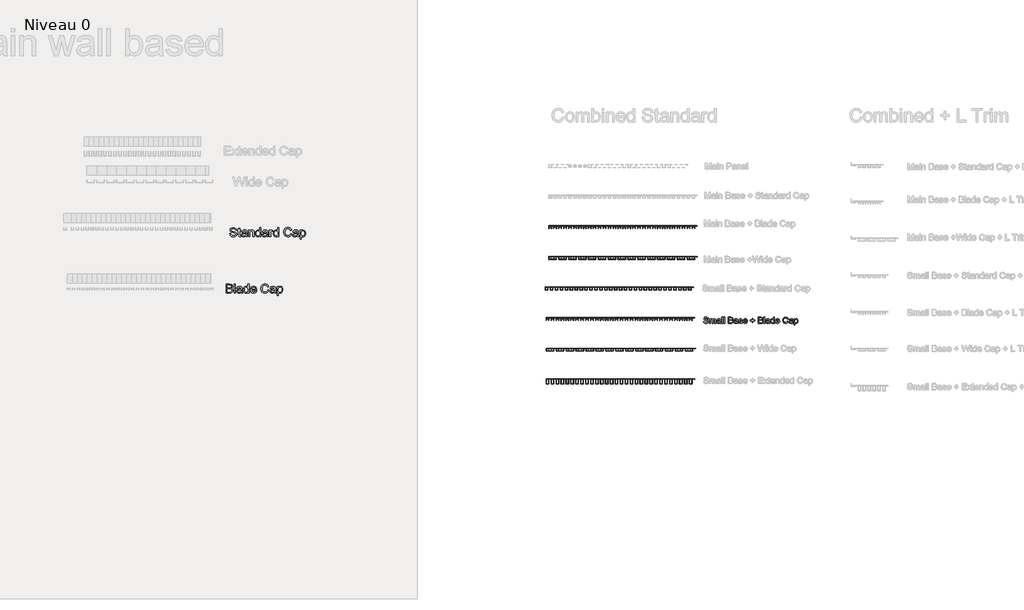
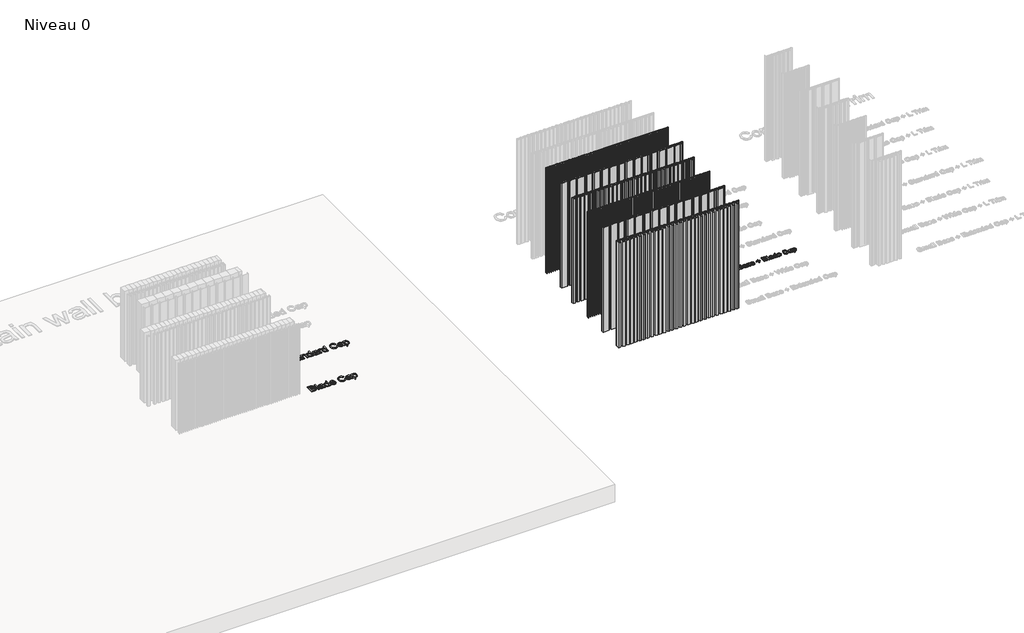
# One storey, part 4 of 25: 9 proxies.
"""IFC4 building model written with IfcOpenShell, lengths in millimetres."""

from ifc_helpers import new_model, si_unit, origin, origin_with_axes, place, context, project, spatial, polyline, outline, extrude, transform, mapped, element, save
from components import a_gen_line_main_base_wide_cap_a_gen_line_main_base_wide_cap_99c77cfe, a_gen_line_main_base_blade_cap_a_gen_line_main_base_blade_9d8e08f2, a_gen_line_small_base_blade_cap_a_gen_line_small_base_blade_af6c0902, a_gen_line_small_base_extended_cap_a_gen_line_small_base_7a9827a8, a_gen_line_small_base_standard_cap_a_gen_line_small_base_28fe45ff, a_gen_line_small_base_wide_cap_a_gen_line_small_base_wide_f15921c7

model = new_model("IFC4")

# Units and contexts
model_context = context("Model", 3, world=origin())
ifc_project = project(units=[si_unit("LENGTHUNIT", "METRE", prefix="MILLI")], contexts=[model_context])

# Site, building, storey
site = spatial("IfcSite", under=ifc_project)
building = spatial("IfcBuilding", under=site)
storey = spatial("IfcBuildingStorey", under=building, Name="Niveau 0", Elevation=0.0)

# Proxies
placement = place(None, origin())
element("IfcBuildingElementProxy", 1, Name="100mm Arial", ObjectType="100mm Arial", at=placement, inside=storey, context=model_context, shape_type="SweptSolid", body=[
    extrude(outline(polyline([(-6970.0910603, 3800.4871927), (-6957.5340215, 3800.4871927), (-6953.4873196, 3787.9178912), (-6943.6035566, 3779.9716401), (-6928.5449203, 3776.942745), (-6915.4237958, 3779.2358761), (-6906.9502472, 3785.538921), (-6904.1666067, 3793.9634187), (-6906.2512714, 3801.7993052), (-6914.7861337, 3807.5014761), (-6933.0698688, 3812.2962048), (-6952.7515556, 3818.488885), (-6963.4323962, 3827.8330877), (-6966.9518006, 3840.3165501), (-6962.5985303, 3854.5290578), (-6949.882076, 3864.5599735), (-6931.267247, 3867.9812761), (-6911.4016193, 3864.400558), (-6898.1578675, 3853.8791329), (-6893.1791978, 3838.158309), (-6905.7362366, 3838.158309), (-6908.0416304, 3845.650839), (-6912.8486218, 3851.0587043), (-6930.7767377, 3855.4242373), (-6948.7539045, 3851.1077552), (-6954.3947618, 3840.6844321), (-6950.3971108, 3831.9778915), (-6929.8938209, 3824.9636081), (-6907.6737484, 3818.6605633), (-6895.5213798, 3808.4824947), (-6891.609568, 3794.2822497), (-6896.109991, 3779.2604016), (-6909.0594373, 3768.2975181), (-6928.054411, 3764.3857063), (-6950.4829499, 3768.6040865), (-6964.6709322, 3781.308278), (-6970.0910603, 3800.4871927)])), origin_with_axes(), (0.0, 0.0, 1.0), 10.0),
    extrude(outline(polyline([(-6847.6599323, 3776.4277102), (-6846.0903024, 3765.5874541), (-6855.483556, 3764.3857063), (-6866.0049811, 3766.4703709), (-6871.2534309, 3771.9395499), (-6872.7740098, 3786.1888458), (-6872.7740098, 3827.1709001), (-6882.1917889, 3827.1709001), (-6882.1917889, 3839.7279389), (-6872.7740098, 3839.7279389), (-6872.7740098, 3857.6560548), (-6860.216971, 3865.0382201), (-6860.216971, 3839.7279389), (-6847.6599323, 3839.7279389), (-6847.6599323, 3827.1709001), (-6860.216971, 3827.1709001), (-6860.216971, 3786.5567278), (-6859.5547834, 3780.0820047), (-6857.4088051, 3777.7888736), (-6853.1291113, 3776.942745), (-6847.6599323, 3776.4277102)])), origin_with_axes(), (0.0, 0.0, 1.0), 10.0),
    extrude(outline(polyline([(-6788.0139981, 3775.3731152), (-6800.1908922, 3766.8627784), (-6813.6431105, 3764.3857063), (-6824.1369444, 3765.8756283), (-6831.8777947, 3770.3453946), (-6836.6510636, 3777.1328174), (-6838.2421532, 3785.5757092), (-6835.8386575, 3795.508523), (-6829.5233499, 3802.7190101), (-6820.7309702, 3806.8392885), (-6809.8661886, 3808.7277494), (-6788.0875745, 3813.0442315), (-6788.0139981, 3815.8401346), (-6791.4720889, 3825.1107609), (-6805.3535028, 3828.7405299), (-6818.0576944, 3826.3247715), (-6824.1154846, 3817.753121), (-6836.6725233, 3819.3227509), (-6831.2401326, 3831.585484), (-6820.3017746, 3838.7714457), (-6803.734822, 3841.2975687), (-6788.5167702, 3839.0657513), (-6779.9205942, 3833.4616822), (-6776.070096, 3824.9390827), (-6775.4569594, 3813.9516737), (-6775.4569594, 3798.3289517), (-6774.8192972, 3776.5135494), (-6772.3176997, 3765.9553361), (-6784.8747384, 3765.9553361), (-6788.0139981, 3775.3731152)]), holes=[polyline([(-6788.0139981, 3800.4871927), (-6808.2720333, 3796.6366945), (-6819.0755012, 3794.6010808), (-6823.9683318, 3791.2901428), (-6825.6851144, 3786.458626), (-6821.9449808, 3779.6650718), (-6810.9698346, 3776.942745), (-6798.2656431, 3779.9471146), (-6790.0741373, 3787.2189154), (-6788.0875745, 3796.9310001), (-6788.0139981, 3800.4871927)])]), origin_with_axes(), (0.0, 0.0, 1.0), 10.0),
    extrude(outline(polyline([(-6758.191031, 3765.9553361), (-6758.191031, 3839.7279389), (-6745.6339923, 3839.7279389), (-6745.6339923, 3829.427243), (-6736.0322722, 3838.3299873), (-6722.9234104, 3841.2975687), (-6711.0653475, 3838.9063357), (-6702.9719436, 3832.6278164), (-6699.2072845, 3823.3939783), (-6698.5450969, 3811.2538724), (-6698.5450969, 3765.9553361), (-6711.1021357, 3765.9553361), (-6711.1021357, 3809.5616153), (-6712.5491382, 3820.6716515), (-6717.6626979, 3826.5455007), (-6726.2833993, 3828.7405299), (-6739.9072959, 3823.8109112), (-6744.2023182, 3816.6678691), (-6745.6339923, 3805.0979804), (-6745.6339923, 3765.9553361), (-6758.191031, 3765.9553361)])), origin_with_axes(), (0.0, 0.0, 1.0), 10.0),
    extrude(outline(polyline([(-6635.759903, 3765.9553361), (-6635.759903, 3777.8011363), (-6644.0679048, 3767.7395638), (-6655.5519544, 3764.3857063), (-6671.1011001, 3769.2417486), (-6682.088509, 3782.7920687), (-6685.9880581, 3802.7680611), (-6682.3950773, 3822.7563162), (-6671.6283976, 3836.5151028), (-6655.6010053, 3841.2975687), (-6644.0249852, 3837.8762662), (-6635.759903, 3828.9857846), (-6635.759903, 3866.4116462), (-6623.2028643, 3866.4116462), (-6623.2028643, 3765.9553361), (-6635.759903, 3765.9553361)]), holes=[polyline([(-6673.4310194, 3802.817112), (-6672.0146737, 3791.4587554), (-6667.7656366, 3783.3806799), (-6661.5913505, 3778.5522287), (-6654.3992575, 3776.942745), (-6647.2102301, 3778.4786523), (-6641.1922938, 3783.0863743), (-6637.1180007, 3790.8517501), (-6635.759903, 3801.8606188), (-6637.1425262, 3813.8964914), (-6641.2903957, 3822.2412814), (-6647.4616162, 3827.1157178), (-6654.9142923, 3828.7405299), (-6662.1799617, 3827.1800971), (-6668.1335186, 3822.4987988), (-6672.1066442, 3814.4575115), (-6673.4310194, 3802.817112)])]), origin_with_axes(), (0.0, 0.0, 1.0), 10.0),
    extrude(outline(polyline([(-6557.2784107, 3775.3731152), (-6569.4553048, 3766.8627784), (-6582.9075231, 3764.3857063), (-6593.401357, 3765.8756283), (-6601.1422073, 3770.3453946), (-6605.9154762, 3777.1328174), (-6607.5065658, 3785.5757092), (-6605.1030701, 3795.508523), (-6598.7877625, 3802.7190101), (-6589.9953828, 3806.8392885), (-6579.1306013, 3808.7277494), (-6557.3519871, 3813.0442315), (-6557.2784107, 3815.8401346), (-6560.7365015, 3825.1107609), (-6574.6179155, 3828.7405299), (-6587.322107, 3826.3247715), (-6593.3798972, 3817.753121), (-6605.936936, 3819.3227509), (-6600.5045452, 3831.585484), (-6589.5661872, 3838.7714457), (-6572.9992347, 3841.2975687), (-6557.7811828, 3839.0657513), (-6549.1850069, 3833.4616822), (-6545.3345086, 3824.9390827), (-6544.721372, 3813.9516737), (-6544.721372, 3798.3289517), (-6544.0837099, 3776.5135494), (-6541.5821123, 3765.9553361), (-6554.1391511, 3765.9553361), (-6557.2784107, 3775.3731152)]), holes=[polyline([(-6557.2784107, 3800.4871927), (-6577.5364459, 3796.6366945), (-6588.3399139, 3794.6010808), (-6593.2327444, 3791.2901428), (-6594.9495271, 3786.458626), (-6591.2093934, 3779.6650718), (-6580.2342472, 3776.942745), (-6567.5300557, 3779.9471146), (-6559.3385499, 3787.2189154), (-6557.3519871, 3796.9310001), (-6557.2784107, 3800.4871927)])]), origin_with_axes(), (0.0, 0.0, 1.0), 10.0),
    extrude(outline(polyline([(-6527.4554437, 3765.9553361), (-6527.4554437, 3839.7279389), (-6516.4680347, 3839.7279389), (-6516.4680347, 3828.8141063), (-6508.6689364, 3838.8695475), (-6500.8207872, 3841.2975687), (-6488.2146975, 3837.422545), (-6492.4085523, 3826.165356), (-6501.2377201, 3828.7405299), (-6508.3378427, 3826.2634578), (-6512.8627912, 3819.3963273), (-6514.8984049, 3804.7300984), (-6514.8984049, 3765.9553361), (-6527.4554437, 3765.9553361)])), origin_with_axes(), (0.0, 0.0, 1.0), 10.0),
    extrude(outline(polyline([(-6434.8472828, 3765.9553361), (-6434.8472828, 3777.8011363), (-6443.1552845, 3767.7395638), (-6454.6393341, 3764.3857063), (-6470.1884798, 3769.2417486), (-6481.1758887, 3782.7920687), (-6485.0754378, 3802.7680611), (-6481.482457, 3822.7563162), (-6470.7157773, 3836.5151028), (-6454.688385, 3841.2975687), (-6443.1123649, 3837.8762662), (-6434.8472828, 3828.9857846), (-6434.8472828, 3866.4116462), (-6422.290244, 3866.4116462), (-6422.290244, 3765.9553361), (-6434.8472828, 3765.9553361)]), holes=[polyline([(-6472.5183991, 3802.817112), (-6471.1020534, 3791.4587554), (-6466.8530163, 3783.3806799), (-6460.6787302, 3778.5522287), (-6453.4866372, 3776.942745), (-6446.2976099, 3778.4786523), (-6440.2796735, 3783.0863743), (-6436.2053804, 3790.8517501), (-6434.8472828, 3801.8606188), (-6436.2299059, 3813.8964914), (-6440.3777754, 3822.2412814), (-6446.5489959, 3827.1157178), (-6454.001672, 3828.7405299), (-6461.2673414, 3827.1800971), (-6467.2208983, 3822.4987988), (-6471.1940239, 3814.4575115), (-6472.5183991, 3802.817112)])]), origin_with_axes(), (0.0, 0.0, 1.0), 10.0),
    extrude(outline(polyline([(-6292.0109668, 3801.6644151), (-6279.453928, 3798.4270535), (-6285.2480694, 3783.7945472), (-6294.3408861, 3773.1045095), (-6306.2847882, 3766.5654071), (-6320.632186, 3764.3857063), (-6335.1972473, 3766.0350439), (-6346.7640704, 3770.9830567), (-6355.6300265, 3779.0580665), (-6362.0924868, 3790.088395), (-6367.3531994, 3816.9437806), (-6365.866343, 3831.5916154), (-6361.4057738, 3844.2406247), (-6354.2044837, 3854.4892039), (-6344.4954647, 3861.9357486), (-6332.9807583, 3866.4698942), (-6320.3624059, 3867.9812761), (-6306.5944222, 3866.0253702), (-6295.2115401, 3860.1576523), (-6286.5693789, 3850.7398733), (-6281.0235578, 3838.1337836), (-6293.5805966, 3835.1416767), (-6303.8812925, 3850.5804577), (-6320.8529152, 3855.4242373), (-6340.4978137, 3850.0531602), (-6351.5955872, 3835.632186), (-6354.7961606, 3816.9683061), (-6351.006976, 3795.3368448), (-6339.2102267, 3781.5167445), (-6321.8829848, 3776.942745), (-6311.4014136, 3778.5001121), (-6302.6672819, 3783.1722135), (-6296.0729971, 3790.9099981), (-6292.0109668, 3801.6644151)])), origin_with_axes(), (0.0, 0.0, 1.0), 10.0),
    extrude(outline(polyline([(-6216.6687341, 3775.3731152), (-6228.8456282, 3766.8627784), (-6242.2978465, 3764.3857063), (-6252.7916804, 3765.8756283), (-6260.5325307, 3770.3453946), (-6265.3057996, 3777.1328174), (-6266.8968892, 3785.5757092), (-6264.4933935, 3795.508523), (-6258.1780859, 3802.7190101), (-6249.3857062, 3806.8392885), (-6238.5209247, 3808.7277494), (-6216.7423105, 3813.0442315), (-6216.6687341, 3815.8401346), (-6220.1268249, 3825.1107609), (-6234.0082389, 3828.7405299), (-6246.7124304, 3826.3247715), (-6252.7702206, 3817.753121), (-6265.3272594, 3819.3227509), (-6259.8948686, 3831.585484), (-6248.9565106, 3838.7714457), (-6232.3895581, 3841.2975687), (-6217.1715062, 3839.0657513), (-6208.5753303, 3833.4616822), (-6204.724832, 3824.9390827), (-6204.1116954, 3813.9516737), (-6204.1116954, 3798.3289517), (-6203.4740333, 3776.5135494), (-6200.9724357, 3765.9553361), (-6213.5294745, 3765.9553361), (-6216.6687341, 3775.3731152)]), holes=[polyline([(-6216.6687341, 3800.4871927), (-6236.9267693, 3796.6366945), (-6247.7302373, 3794.6010808), (-6252.6230678, 3791.2901428), (-6254.3398505, 3786.458626), (-6250.5997168, 3779.6650718), (-6239.6245706, 3776.942745), (-6226.9203791, 3779.9471146), (-6218.7288733, 3787.2189154), (-6216.7423105, 3796.9310001), (-6216.6687341, 3800.4871927)])]), origin_with_axes(), (0.0, 0.0, 1.0), 10.0),
    extrude(outline(polyline([(-6186.8457671, 3737.7019989), (-6186.8457671, 3839.7279389), (-6174.2887283, 3839.7279389), (-6174.2887283, 3827.4161548), (-6165.6067132, 3837.8272152), (-6153.8835403, 3841.2975687), (-6137.9665126, 3836.4415264), (-6127.5677149, 3822.7563162), (-6124.0605732, 3803.4057232), (-6128.021436, 3783.0618489), (-6139.5238798, 3769.2049604), (-6155.4041192, 3764.3857063), (-6166.3302145, 3767.6108051), (-6174.2887283, 3775.7655226), (-6174.2887283, 3737.7019989), (-6186.8457671, 3737.7019989)]), holes=[polyline([(-6174.2887283, 3802.2530263), (-6172.9306306, 3790.9958372), (-6168.8563375, 3783.1231625), (-6162.8445326, 3778.4878494), (-6155.6738993, 3776.942745), (-6148.3867702, 3778.5430317), (-6142.2216811, 3783.3438917), (-6138.0186293, 3791.5047407), (-6136.617612, 3803.184994), (-6137.9849067, 3814.3808694), (-6142.086791, 3822.3639087), (-6148.0893989, 3827.1463746), (-6155.1588646, 3828.7405299), (-6162.2559214, 3827.0452071), (-6168.4884555, 3821.9592385), (-6172.8386601, 3813.6420397), (-6174.2887283, 3802.2530263)])]), origin_with_axes(), (0.0, 0.0, 1.0), 10.0),
])
element("IfcBuildingElementProxy", 2, Name="100mm Arial", ObjectType="100mm Arial", at=placement, inside=storey, context=model_context, shape_type="SweptSolid", body=[
    extrude(outline(polyline([(-7011.4402734, 3137.6682219), (-7011.4402734, 3238.124532), (-6973.1069695, 3238.124532), (-6954.332725, 3235.1692134), (-6943.2472142, 3226.0825281), (-6939.2373004, 3213.2311837), (-6942.6095521, 3201.4957481), (-6952.7998833, 3192.6052665), (-6940.4267856, 3183.2365384), (-6936.0980407, 3167.6138163), (-6939.0533594, 3154.1125471), (-6946.3742111, 3144.4985643), (-6957.3003064, 3139.3972673), (-6973.4012751, 3137.6682219), (-7011.4402734, 3137.6682219)]), holes=[polyline([(-6998.8832346, 3197.3141561), (-6975.9519236, 3197.3141561), (-6962.5610189, 3198.3932766), (-6954.5044032, 3203.0408524), (-6951.7943392, 3211.2200955), (-6954.3204622, 3219.4116012), (-6961.5554748, 3224.2553808), (-6977.6932317, 3225.5674933), (-6998.8832346, 3225.5674933), (-6998.8832346, 3197.3141561)]), polyline([(-6998.8832346, 3150.2252607), (-6973.1314949, 3150.2252607), (-6963.8118177, 3150.71577), (-6955.9268803, 3153.4503595), (-6950.702956, 3159.0299031), (-6948.6550795, 3167.491189), (-6951.0585752, 3177.2523246), (-6958.8454108, 3183.0771228), (-6974.3577682, 3184.7571173), (-6998.8832346, 3184.7571173), (-6998.8832346, 3150.2252607)])]), origin_with_axes(), (0.0, 0.0, 1.0), 10.0),
    extrude(outline(polyline([(-6920.4017423, 3137.6682219), (-6920.4017423, 3238.124532), (-6907.8447035, 3238.124532), (-6907.8447035, 3137.6682219), (-6920.4017423, 3137.6682219)])), origin_with_axes(), (0.0, 0.0, 1.0), 10.0),
    extrude(outline(polyline([(-6841.92025, 3147.086001), (-6854.097144, 3138.5756642), (-6867.5493623, 3136.0985921), (-6878.0431962, 3137.5885141), (-6885.7840465, 3142.0582804), (-6890.5573154, 3148.8457032), (-6892.1484051, 3157.288595), (-6889.7449094, 3167.2214088), (-6883.4296018, 3174.431896), (-6874.6372221, 3178.5521743), (-6863.7724405, 3180.4406352), (-6841.9938264, 3184.7571173), (-6841.92025, 3187.5530204), (-6845.3783407, 3196.8236467), (-6859.2597547, 3200.4534157), (-6871.9639463, 3198.0376573), (-6878.0217364, 3189.4660068), (-6890.5787752, 3191.0356367), (-6885.1463844, 3203.2983698), (-6874.2080264, 3210.4843315), (-6857.6410739, 3213.0104545), (-6842.423022, 3210.7786371), (-6833.8268461, 3205.174568), (-6829.9763479, 3196.6519685), (-6829.3632112, 3185.6645595), (-6829.3632112, 3170.0418375), (-6828.7255491, 3148.2264352), (-6826.2239515, 3137.6682219), (-6838.7809903, 3137.6682219), (-6841.92025, 3147.086001)]), holes=[polyline([(-6841.92025, 3172.2000785), (-6862.1782852, 3168.3495803), (-6872.9817531, 3166.3139666), (-6877.8745836, 3163.0030286), (-6879.5913663, 3158.1715118), (-6875.8512327, 3151.3779576), (-6864.8760865, 3148.6556308), (-6852.1718949, 3151.6600004), (-6843.9803892, 3158.9318012), (-6841.9938264, 3168.6438859), (-6841.92025, 3172.2000785)])]), origin_with_axes(), (0.0, 0.0, 1.0), 10.0),
    extrude(outline(polyline([(-6766.5780174, 3137.6682219), (-6766.5780174, 3149.5140221), (-6774.8860191, 3139.4524496), (-6786.3700687, 3136.0985921), (-6801.9192144, 3140.9546344), (-6812.9066233, 3154.5049545), (-6816.8061724, 3174.4809469), (-6813.2131916, 3194.469202), (-6802.4465119, 3208.2279886), (-6786.4191196, 3213.0104545), (-6774.8430995, 3209.589152), (-6766.5780174, 3200.6986704), (-6766.5780174, 3238.124532), (-6754.0209786, 3238.124532), (-6754.0209786, 3137.6682219), (-6766.5780174, 3137.6682219)]), holes=[polyline([(-6804.2491337, 3174.5299978), (-6802.832788, 3163.1716412), (-6798.583751, 3155.0935657), (-6792.4094648, 3150.2651146), (-6785.2173718, 3148.6556308), (-6778.0283445, 3150.1915382), (-6772.0104082, 3154.7992601), (-6767.9361151, 3162.5646359), (-6766.5780174, 3173.5735046), (-6767.9606405, 3185.6093772), (-6772.10851, 3193.9541672), (-6778.2797305, 3198.8286036), (-6785.7324066, 3200.4534157), (-6792.998076, 3198.8929829), (-6798.9516329, 3194.2116846), (-6802.9247585, 3186.1703973), (-6804.2491337, 3174.5299978)])]), origin_with_axes(), (0.0, 0.0, 1.0), 10.0),
    extrude(outline(polyline([(-6683.5347883, 3159.6430397), (-6671.2230042, 3158.0734099), (-6675.6590479, 3148.7966523), (-6682.7377107, 3141.8620766), (-6692.2995769, 3137.5394632), (-6704.185231, 3136.0985921), (-6718.9189049, 3138.5848612), (-6730.2558017, 3146.0436687), (-6737.4846829, 3157.9906364), (-6739.89431, 3173.9413866), (-6737.4601575, 3190.4286314), (-6730.1576998, 3202.7588096), (-6718.9740872, 3210.4475433), (-6704.8964695, 3213.0104545), (-6691.2572445, 3210.4536746), (-6680.3587404, 3202.783335), (-6673.2126327, 3190.4776823), (-6670.8305968, 3174.014963), (-6670.9041732, 3170.6304487), (-6727.3372712, 3170.6304487), (-6725.1637018, 3161.2310637), (-6720.1145214, 3154.3210135), (-6712.8273922, 3150.0719765), (-6703.9399763, 3148.6556308), (-6691.6281922, 3151.2798557), (-6683.5347883, 3159.6430397)]), holes=[polyline([(-6727.3372712, 3183.1874874), (-6683.3876355, 3183.1874874), (-6688.4153561, 3194.5673038), (-6695.7362078, 3198.9818878), (-6704.9455204, 3200.4534157), (-6720.408827, 3195.7567889), (-6725.2740664, 3190.2661502), (-6727.3372712, 3183.1874874)])]), origin_with_axes(), (0.0, 0.0, 1.0), 10.0),
    extrude(outline(polyline([(-6546.8298389, 3173.3773009), (-6534.2728001, 3170.1399393), (-6540.0669416, 3155.507433), (-6549.1597582, 3144.8173953), (-6561.1036603, 3138.2782929), (-6575.4510581, 3136.0985921), (-6590.0161195, 3137.7479297), (-6601.5829425, 3142.6959425), (-6610.4488986, 3150.7709523), (-6616.911359, 3161.8012808), (-6622.1720715, 3188.6566664), (-6620.6852151, 3203.3045012), (-6616.2246459, 3215.9535105), (-6609.0233559, 3226.2020897), (-6599.3143369, 3233.6486344), (-6587.7996304, 3238.18278), (-6575.181278, 3239.6941619), (-6561.4132943, 3237.738256), (-6550.0304123, 3231.8705381), (-6541.3882511, 3222.4527591), (-6535.84243, 3209.8466694), (-6548.3994688, 3206.8545625), (-6558.7001646, 3222.2933435), (-6575.6717873, 3227.1371231), (-6595.3166859, 3221.766046), (-6606.4144594, 3207.3450718), (-6609.6150328, 3188.6811919), (-6605.8258482, 3167.0497306), (-6594.0290989, 3153.2296303), (-6576.7018569, 3148.6556308), (-6566.2202857, 3150.2129979), (-6557.486154, 3154.8850993), (-6550.8918693, 3162.6228839), (-6546.8298389, 3173.3773009)])), origin_with_axes(), (0.0, 0.0, 1.0), 10.0),
    extrude(outline(polyline([(-6471.4876063, 3147.086001), (-6483.6645003, 3138.5756642), (-6497.1167186, 3136.0985921), (-6507.6105525, 3137.5885141), (-6515.3514029, 3142.0582804), (-6520.1246718, 3148.8457032), (-6521.7157614, 3157.288595), (-6519.3122657, 3167.2214088), (-6512.9969581, 3174.431896), (-6504.2045784, 3178.5521743), (-6493.3397968, 3180.4406352), (-6471.5611827, 3184.7571173), (-6471.4876063, 3187.5530204), (-6474.9456971, 3196.8236467), (-6488.827111, 3200.4534157), (-6501.5313026, 3198.0376573), (-6507.5890928, 3189.4660068), (-6520.1461315, 3191.0356367), (-6514.7137407, 3203.2983698), (-6503.7753827, 3210.4843315), (-6487.2084302, 3213.0104545), (-6471.9903784, 3210.7786371), (-6463.3942024, 3205.174568), (-6459.5437042, 3196.6519685), (-6458.9305675, 3185.6645595), (-6458.9305675, 3170.0418375), (-6458.2929054, 3148.2264352), (-6455.7913078, 3137.6682219), (-6468.3483466, 3137.6682219), (-6471.4876063, 3147.086001)]), holes=[polyline([(-6471.4876063, 3172.2000785), (-6491.7456415, 3168.3495803), (-6502.5491094, 3166.3139666), (-6507.44194, 3163.0030286), (-6509.1587226, 3158.1715118), (-6505.418589, 3151.3779576), (-6494.4434428, 3148.6556308), (-6481.7392512, 3151.6600004), (-6473.5477455, 3158.9318012), (-6471.5611827, 3168.6438859), (-6471.4876063, 3172.2000785)])]), origin_with_axes(), (0.0, 0.0, 1.0), 10.0),
    extrude(outline(polyline([(-6441.6646392, 3109.4148847), (-6441.6646392, 3211.4408247), (-6429.1076005, 3211.4408247), (-6429.1076005, 3199.1290406), (-6420.4255854, 3209.540101), (-6408.7024125, 3213.0104545), (-6392.7853848, 3208.1544122), (-6382.3865871, 3194.469202), (-6378.8794454, 3175.118609), (-6382.8403082, 3154.7747347), (-6394.3427519, 3140.9178462), (-6410.2229914, 3136.0985921), (-6421.1490866, 3139.3236909), (-6429.1076005, 3147.4784084), (-6429.1076005, 3109.4148847), (-6441.6646392, 3109.4148847)]), holes=[polyline([(-6429.1076005, 3173.9659121), (-6427.7495028, 3162.708723), (-6423.6752097, 3154.8360483), (-6417.6634047, 3150.2007352), (-6410.4927715, 3148.6556308), (-6403.2056423, 3150.2559175), (-6397.0405532, 3155.0567775), (-6392.8375014, 3163.2176265), (-6391.4364842, 3174.8978798), (-6392.8037789, 3186.0937552), (-6396.9056632, 3194.0767945), (-6402.908271, 3198.8592604), (-6409.9777367, 3200.4534157), (-6417.0747935, 3198.7580929), (-6423.3073277, 3193.6721243), (-6427.6575323, 3185.3549255), (-6429.1076005, 3173.9659121)])]), origin_with_axes(), (0.0, 0.0, 1.0), 10.0),
])
element("IfcBuildingElementProxy", 3, Name="70mm Arial", ObjectType="70mm Arial", at=placement, inside=storey, context=model_context, shape_type="SweptSolid", body=[
    extrude(outline(polyline([(-1688.9882989, 2823.3885611), (-1680.1983718, 2823.3885611), (-1677.3656804, 2814.5900501), (-1670.4470464, 2809.0276743), (-1659.9060009, 2806.9074477), (-1650.7212138, 2808.5126395), (-1644.7897297, 2812.9247709), (-1642.8411814, 2818.8219193), (-1644.3004467, 2824.3070398), (-1650.2748503, 2828.2985595), (-1663.0734649, 2831.6548696), (-1676.8506456, 2835.9897457), (-1684.327234, 2842.5306876), (-1686.7908171, 2851.2691113), (-1683.7435279, 2861.2178667), (-1674.8420099, 2868.2395077), (-1661.8116297, 2870.6344195), (-1647.9056902, 2868.1279168), (-1638.635064, 2860.7629193), (-1635.1499952, 2849.7583425), (-1643.9399223, 2849.7583425), (-1648.918592, 2858.7886192), (-1661.4682731, 2861.8444924), (-1674.0522899, 2858.8229549), (-1678.00089, 2851.5266287), (-1675.2025343, 2845.4320503), (-1660.8502314, 2840.5220519), (-1645.2961806, 2836.1099205), (-1636.7895226, 2828.9852725), (-1634.0512543, 2819.045101), (-1637.2015505, 2808.5298073), (-1646.2661628, 2800.8557889), (-1659.5626444, 2798.1175206), (-1675.2626217, 2801.0703868), (-1685.1942093, 2809.9633208), (-1688.9882989, 2823.3885611)])), origin_with_axes(), (0.0, 0.0, 1.0), 10.0),
    extrude(outline(polyline([(-1621.9651045, 2799.2162615), (-1621.9651045, 2850.8570834), (-1613.1751774, 2850.8570834), (-1613.1751774, 2842.3590093), (-1607.1321024, 2849.320563), (-1598.5310214, 2851.9558243), (-1589.7239264, 2849.2690595), (-1584.8825994, 2841.7409676), (-1578.0240527, 2849.4021101), (-1569.3628843, 2851.9558243), (-1557.8690245, 2847.7067873), (-1553.8431692, 2834.6163196), (-1553.8431692, 2799.2162615), (-1562.6330963, 2799.2162615), (-1562.6330963, 2830.8393978), (-1563.4485681, 2838.1786436), (-1566.4014342, 2841.7924711), (-1571.4230234, 2843.1658972), (-1580.0670241, 2839.6464928), (-1583.5091733, 2828.3672308), (-1583.5091733, 2799.2162615), (-1592.2991004, 2799.2162615), (-1592.2991004, 2831.8179639), (-1594.3334878, 2840.3332058), (-1601.0031884, 2843.1658972), (-1607.5097946, 2841.2774363), (-1611.8360869, 2835.7493962), (-1613.1751774, 2825.2598542), (-1613.1751774, 2799.2162615), (-1621.9651045, 2799.2162615)])), origin_with_axes(), (0.0, 0.0, 1.0), 10.0),
    extrude(outline(polyline([(-1507.6960517, 2805.8087068), (-1516.2198775, 2799.8514711), (-1525.6364303, 2798.1175206), (-1538.4007093, 2802.2893024), (-1542.8557602, 2812.9505226), (-1541.1733133, 2819.9034924), (-1536.7525979, 2824.9508333), (-1530.5979322, 2827.8350282), (-1522.9925851, 2829.1569508), (-1507.7475552, 2832.1784883), (-1507.6960517, 2834.1356205), (-1510.1167152, 2840.6250589), (-1519.833705, 2843.1658972), (-1528.7266391, 2841.4748663), (-1532.9670922, 2835.4747109), (-1541.7570194, 2836.5734518), (-1537.9543458, 2845.1573651), (-1530.2974952, 2850.1875382), (-1518.7006284, 2851.9558243), (-1508.0479921, 2850.3935521), (-1502.030669, 2846.4707038), (-1499.3353202, 2840.5048841), (-1498.9061246, 2832.8136978), (-1498.9061246, 2821.8777924), (-1498.4597611, 2806.6070108), (-1496.7086428, 2799.2162615), (-1505.4985699, 2799.2162615), (-1507.6960517, 2805.8087068)]), holes=[polyline([(-1507.6960517, 2823.3885611), (-1521.8766763, 2820.6932124), (-1529.4391039, 2819.2682828), (-1532.8640853, 2816.9506262), (-1534.0658331, 2813.5685644), (-1531.4477396, 2808.8130765), (-1523.7651372, 2806.9074477), (-1514.8722031, 2809.0105065), (-1509.1381491, 2814.100767), (-1507.7475552, 2820.8992263), (-1507.6960517, 2823.3885611)])]), origin_with_axes(), (0.0, 0.0, 1.0), 10.0),
    extrude(outline(polyline([(-1486.8199747, 2799.2162615), (-1486.8199747, 2869.5356786), (-1478.0300476, 2869.5356786), (-1478.0300476, 2799.2162615), (-1486.8199747, 2799.2162615)])), origin_with_axes(), (0.0, 0.0, 1.0), 10.0),
    extrude(outline(polyline([(-1464.8451569, 2799.2162615), (-1464.8451569, 2869.5356786), (-1456.0552298, 2869.5356786), (-1456.0552298, 2799.2162615), (-1464.8451569, 2799.2162615)])), origin_with_axes(), (0.0, 0.0, 1.0), 10.0),
    extrude(outline(polyline([(-1414.3030759, 2799.2162615), (-1414.3030759, 2869.5356786), (-1387.4697631, 2869.5356786), (-1374.327792, 2867.4669555), (-1366.5679344, 2861.1062758), (-1363.7609948, 2852.1103348), (-1366.1215709, 2843.8955298), (-1373.2548028, 2837.6721927), (-1364.5936344, 2831.114083), (-1361.563513, 2820.1781776), (-1363.6322361, 2810.7272891), (-1368.7568323, 2803.9975012), (-1376.405099, 2800.4265933), (-1387.675777, 2799.2162615), (-1414.3030759, 2799.2162615)]), holes=[polyline([(-1405.5131487, 2808.0061886), (-1387.486931, 2808.0061886), (-1380.9631569, 2808.3495452), (-1375.4437007, 2810.2637578), (-1371.7869537, 2814.1694383), (-1370.3534402, 2820.0923384), (-1372.0358872, 2826.9251334), (-1377.4866721, 2831.0024922), (-1388.3453223, 2832.1784883), (-1405.5131487, 2832.1784883), (-1405.5131487, 2808.0061886)]), polyline([(-1405.5131487, 2840.9684154), (-1389.461231, 2840.9684154), (-1380.0875978, 2841.7237998), (-1374.4479668, 2844.9771029), (-1372.5509219, 2850.702573), (-1374.3192081, 2856.436627), (-1379.3837169, 2859.8272727), (-1390.6801467, 2860.7457515), (-1405.5131487, 2860.7457515), (-1405.5131487, 2840.9684154)])]), origin_with_axes(), (0.0, 0.0, 1.0), 10.0),
    extrude(outline(polyline([(-1317.6138773, 2805.8087068), (-1326.1377032, 2799.8514711), (-1335.554256, 2798.1175206), (-1348.3185349, 2802.2893024), (-1352.7735859, 2812.9505226), (-1351.0911389, 2819.9034924), (-1346.6704236, 2824.9508333), (-1340.5157578, 2827.8350282), (-1332.9104107, 2829.1569508), (-1317.6653808, 2832.1784883), (-1317.6138773, 2834.1356205), (-1320.0345409, 2840.6250589), (-1329.7515306, 2843.1658972), (-1338.6444647, 2841.4748663), (-1342.8849179, 2835.4747109), (-1351.674845, 2836.5734518), (-1347.8721714, 2845.1573651), (-1340.2153208, 2850.1875382), (-1328.6184541, 2851.9558243), (-1317.9658178, 2850.3935521), (-1311.9484946, 2846.4707038), (-1309.2531459, 2840.5048841), (-1308.8239502, 2832.8136978), (-1308.8239502, 2821.8777924), (-1308.3775867, 2806.6070108), (-1306.6264684, 2799.2162615), (-1315.4163956, 2799.2162615), (-1317.6138773, 2805.8087068)]), holes=[polyline([(-1317.6138773, 2823.3885611), (-1331.794502, 2820.6932124), (-1339.3569295, 2819.2682828), (-1342.7819109, 2816.9506262), (-1343.9836587, 2813.5685644), (-1341.3655652, 2808.8130765), (-1333.6829629, 2806.9074477), (-1324.7900288, 2809.0105065), (-1319.0559748, 2814.100767), (-1317.6653808, 2820.8992263), (-1317.6138773, 2823.3885611)])]), origin_with_axes(), (0.0, 0.0, 1.0), 10.0),
    extrude(outline(polyline([(-1300.0340231, 2814.598634), (-1291.2440959, 2815.6973749), (-1287.1753211, 2809.1736008), (-1277.8531913, 2806.9074477), (-1268.8915859, 2808.9847547), (-1265.9730554, 2813.8604175), (-1268.9087537, 2817.8090175), (-1277.9561983, 2820.3155202), (-1291.1925924, 2824.6160607), (-1296.969566, 2829.6376499), (-1298.9352822, 2836.7279623), (-1297.3558421, 2843.2774881), (-1293.0467177, 2848.2819095), (-1287.4585902, 2850.8828352), (-1279.8961626, 2851.9558243), (-1269.2006068, 2850.2304578), (-1262.4021475, 2845.560809), (-1259.38061, 2837.6721927), (-1268.1705372, 2836.5734518), (-1271.4753438, 2841.4233628), (-1279.2094496, 2843.1658972), (-1287.6216845, 2841.500618), (-1290.145355, 2837.6206892), (-1289.0981176, 2835.0626831), (-1285.8190628, 2833.1227187), (-1278.2480513, 2831.2514256), (-1265.3464297, 2827.1139795), (-1259.3548583, 2822.4271628), (-1257.1831283, 2814.7874801), (-1259.7325505, 2806.3752451), (-1267.0889641, 2800.2720828), (-1277.9733661, 2798.1175206), (-1293.3042351, 2802.2721346), (-1300.0340231, 2814.598634)])), origin_with_axes(), (0.0, 0.0, 1.0), 10.0),
    extrude(outline(polyline([(-1211.1390177, 2814.598634), (-1202.5207689, 2813.4998931), (-1210.5810634, 2802.1519598), (-1225.5943276, 2798.1175206), (-1235.9078993, 2799.857909), (-1243.8437271, 2805.0790742), (-1248.903944, 2813.4419517), (-1250.5906829, 2824.6074768), (-1248.8867761, 2836.1485481), (-1243.7750558, 2844.7796729), (-1235.946527, 2850.1617865), (-1226.0921946, 2851.9558243), (-1216.5447371, 2850.1660784), (-1208.9157842, 2844.7968407), (-1203.9135088, 2836.1828838), (-1202.2460836, 2824.6589803), (-1202.2975871, 2822.2898202), (-1241.8007558, 2822.2898202), (-1236.7448309, 2810.8732156), (-1225.4226493, 2806.9074477), (-1216.8044005, 2808.7444052), (-1211.1390177, 2814.598634)]), holes=[polyline([(-1241.8007558, 2831.0797474), (-1211.0360108, 2831.0797474), (-1214.5554152, 2839.0456188), (-1226.1265302, 2843.1658972), (-1236.9508448, 2839.8782584), (-1241.8007558, 2831.0797474)])]), origin_with_axes(), (0.0, 0.0, 1.0), 10.0),
    extrude(outline(polyline([(-1148.4077799, 2810.2036704), (-1148.4077799, 2828.8822656), (-1167.0863751, 2828.8822656), (-1167.0863751, 2837.6721927), (-1148.4077799, 2837.6721927), (-1148.4077799, 2856.3507879), (-1139.6178528, 2856.3507879), (-1139.6178528, 2837.6721927), (-1120.9392576, 2837.6721927), (-1120.9392576, 2828.8822656), (-1139.6178528, 2828.8822656), (-1139.6178528, 2810.2036704), (-1148.4077799, 2810.2036704)])), origin_with_axes(), (0.0, 0.0, 1.0), 10.0),
    extrude(outline(polyline([(-1080.2858446, 2799.2162615), (-1080.2858446, 2869.5356786), (-1053.4525319, 2869.5356786), (-1040.3105607, 2867.4669555), (-1032.5507032, 2861.1062758), (-1029.7437636, 2852.1103348), (-1032.1043397, 2843.8955298), (-1039.2375716, 2837.6721927), (-1030.5764031, 2831.114083), (-1027.5462818, 2820.1781776), (-1029.6150049, 2810.7272891), (-1034.7396011, 2803.9975012), (-1042.3878677, 2800.4265933), (-1053.6585458, 2799.2162615), (-1080.2858446, 2799.2162615)]), holes=[polyline([(-1071.4959175, 2808.0061886), (-1053.4696997, 2808.0061886), (-1046.9459257, 2808.3495452), (-1041.4264695, 2810.2637578), (-1037.7697224, 2814.1694383), (-1036.3362089, 2820.0923384), (-1038.0186559, 2826.9251334), (-1043.4694408, 2831.0024922), (-1054.328091, 2832.1784883), (-1071.4959175, 2832.1784883), (-1071.4959175, 2808.0061886)]), polyline([(-1071.4959175, 2840.9684154), (-1055.4439997, 2840.9684154), (-1046.0703665, 2841.7237998), (-1040.4307355, 2844.9771029), (-1038.5336907, 2850.702573), (-1040.3019768, 2856.436627), (-1045.3664856, 2859.8272727), (-1056.6629154, 2860.7457515), (-1071.4959175, 2860.7457515), (-1071.4959175, 2840.9684154)])]), origin_with_axes(), (0.0, 0.0, 1.0), 10.0),
    extrude(outline(polyline([(-1016.5588729, 2799.2162615), (-1016.5588729, 2869.5356786), (-1007.7689457, 2869.5356786), (-1007.7689457, 2799.2162615), (-1016.5588729, 2799.2162615)])), origin_with_axes(), (0.0, 0.0, 1.0), 10.0),
    extrude(outline(polyline([(-961.6218282, 2805.8087068), (-970.1456541, 2799.8514711), (-979.5622069, 2798.1175206), (-992.3264858, 2802.2893024), (-996.7815368, 2812.9505226), (-995.0990898, 2819.9034924), (-990.6783745, 2824.9508333), (-984.5237087, 2827.8350282), (-976.9183616, 2829.1569508), (-961.6733317, 2832.1784883), (-961.6218282, 2834.1356205), (-964.0424918, 2840.6250589), (-973.7594815, 2843.1658972), (-982.6524156, 2841.4748663), (-986.8928688, 2835.4747109), (-995.6827959, 2836.5734518), (-991.8801223, 2845.1573651), (-984.2232718, 2850.1875382), (-972.626405, 2851.9558243), (-961.9737687, 2850.3935521), (-955.9564455, 2846.4707038), (-953.2610968, 2840.5048841), (-952.8319011, 2832.8136978), (-952.8319011, 2821.8777924), (-952.3855376, 2806.6070108), (-950.6344193, 2799.2162615), (-959.4243465, 2799.2162615), (-961.6218282, 2805.8087068)]), holes=[polyline([(-961.6218282, 2823.3885611), (-975.8024529, 2820.6932124), (-983.3648804, 2819.2682828), (-986.7898618, 2816.9506262), (-987.9916097, 2813.5685644), (-985.3735161, 2808.8130765), (-977.6909138, 2806.9074477), (-968.7979797, 2809.0105065), (-963.0639257, 2814.100767), (-961.6733317, 2820.8992263), (-961.6218282, 2823.3885611)])]), origin_with_axes(), (0.0, 0.0, 1.0), 10.0),
    extrude(outline(polyline([(-908.8822654, 2799.2162615), (-908.8822654, 2807.5083217), (-914.6978666, 2800.4652209), (-922.7367014, 2798.1175206), (-933.6211033, 2801.5167502), (-941.3122896, 2811.0019743), (-944.041974, 2824.985169), (-941.5268874, 2838.9769475), (-933.9902116, 2848.6080982), (-922.771037, 2851.9558243), (-914.6678229, 2849.5609125), (-908.8822654, 2843.3375755), (-908.8822654, 2869.5356786), (-900.0923383, 2869.5356786), (-900.0923383, 2799.2162615), (-908.8822654, 2799.2162615)]), holes=[polyline([(-935.2520468, 2825.0195046), (-931.2862789, 2811.4140022), (-921.9298135, 2806.9074477), (-912.684939, 2811.2079883), (-908.8822654, 2824.3499594), (-912.7536103, 2838.6164232), (-922.2903379, 2843.1658972), (-931.5437963, 2838.7966854), (-935.2520468, 2825.0195046)])]), origin_with_axes(), (0.0, 0.0, 1.0), 10.0),
    extrude(outline(polyline([(-850.7520051, 2814.598634), (-842.1337562, 2813.4998931), (-850.1940507, 2802.1519598), (-865.2073149, 2798.1175206), (-875.5208867, 2799.857909), (-883.4567145, 2805.0790742), (-888.5169313, 2813.4419517), (-890.2036702, 2824.6074768), (-888.4997635, 2836.1485481), (-883.3880431, 2844.7796729), (-875.5595143, 2850.1617865), (-865.7051819, 2851.9558243), (-856.1577244, 2850.1660784), (-848.5287716, 2844.7968407), (-843.5264961, 2836.1828838), (-841.859071, 2824.6589803), (-841.9105745, 2822.2898202), (-881.4137431, 2822.2898202), (-876.3578182, 2810.8732156), (-865.0356367, 2806.9074477), (-856.4173878, 2808.7444052), (-850.7520051, 2814.598634)]), holes=[polyline([(-881.4137431, 2831.0797474), (-850.6489981, 2831.0797474), (-854.1684025, 2839.0456188), (-865.7395176, 2843.1658972), (-876.5638321, 2839.8782584), (-881.4137431, 2831.0797474)])]), origin_with_axes(), (0.0, 0.0, 1.0), 10.0),
    extrude(outline(polyline([(-755.0585405, 2824.2126168), (-746.2686134, 2821.9464637), (-750.3245124, 2811.7037093), (-756.689484, 2804.2206829), (-765.0502155, 2799.6433112), (-775.093394, 2798.1175206), (-793.385713, 2802.7356659), (-804.1156046, 2816.1094027), (-807.7981033, 2834.9081727), (-803.6349054, 2854.0159635), (-791.7976891, 2866.4025503), (-774.9045479, 2870.6344195), (-757.2989418, 2865.1578829), (-747.3673543, 2849.7411747), (-756.1572814, 2847.6466999), (-763.3677685, 2858.4538466), (-775.2479044, 2861.8444924), (-788.9993334, 2858.0847384), (-796.7677748, 2847.9900564), (-799.0081762, 2834.9253405), (-796.355747, 2819.7833176), (-788.0980225, 2810.1092474), (-775.9689531, 2806.9074477), (-762.5179611, 2811.2680757), (-755.0585405, 2824.2126168)])), origin_with_axes(), (0.0, 0.0, 1.0), 10.0),
    extrude(outline(polyline([(-702.3189777, 2805.8087068), (-710.8428035, 2799.8514711), (-720.2593563, 2798.1175206), (-733.0236353, 2802.2893024), (-737.4786862, 2812.9505226), (-735.7962392, 2819.9034924), (-731.3755239, 2824.9508333), (-725.2208581, 2827.8350282), (-717.615511, 2829.1569508), (-702.3704811, 2832.1784883), (-702.3189777, 2834.1356205), (-704.7396412, 2840.6250589), (-714.456631, 2843.1658972), (-723.3495651, 2841.4748663), (-727.5900182, 2835.4747109), (-736.3799453, 2836.5734518), (-732.5772718, 2845.1573651), (-724.9204212, 2850.1875382), (-713.3235544, 2851.9558243), (-702.6709181, 2850.3935521), (-696.6535949, 2846.4707038), (-693.9582462, 2840.5048841), (-693.5290505, 2832.8136978), (-693.5290505, 2821.8777924), (-693.082687, 2806.6070108), (-691.3315687, 2799.2162615), (-700.1214959, 2799.2162615), (-702.3189777, 2805.8087068)]), holes=[polyline([(-702.3189777, 2823.3885611), (-716.4996023, 2820.6932124), (-724.0620299, 2819.2682828), (-727.4870112, 2816.9506262), (-728.6887591, 2813.5685644), (-726.0706656, 2808.8130765), (-718.3880632, 2806.9074477), (-709.4951291, 2809.0105065), (-703.7610751, 2814.100767), (-702.3704811, 2820.8992263), (-702.3189777, 2823.3885611)])]), origin_with_axes(), (0.0, 0.0, 1.0), 10.0),
    extrude(outline(polyline([(-681.4429007, 2779.4389254), (-681.4429007, 2850.8570834), (-672.6529736, 2850.8570834), (-672.6529736, 2842.2388346), (-666.575563, 2849.5265769), (-658.369342, 2851.9558243), (-647.2274226, 2848.5565947), (-639.9482642, 2838.9769475), (-637.493265, 2825.4315325), (-640.265869, 2811.1908204), (-648.3175796, 2801.4909985), (-659.4337472, 2798.1175206), (-667.0820139, 2800.3750898), (-672.6529736, 2806.0833921), (-672.6529736, 2779.4389254), (-681.4429007, 2779.4389254)]), holes=[polyline([(-672.6529736, 2824.6246446), (-668.8503, 2811.23374), (-659.6225933, 2806.9074477), (-650.2060405, 2811.3882504), (-646.2831922, 2825.277022), (-650.1116175, 2838.7022623), (-659.262069, 2843.1658972), (-668.5927826, 2838.4189932), (-672.6529736, 2824.6246446)])]), origin_with_axes(), (0.0, 0.0, 1.0), 10.0),
])
a_gen_line_main_base_wide_cap_a_gen_line_main_base_wide_cap_shape = a_gen_line_main_base_wide_cap_a_gen_line_main_base_wide_cap_99c77cfe(model_context)
element("IfcBuildingElementProxy", 4, Name="A_GEN_LINE_Main Base_ Wide Cap : A_GEN_LINE_Main Base_ Wide Cap", ObjectType="A_GEN_LINE_Main Base_ Wide Cap : A_GEN_LINE_Main Base_ Wide Cap", at=placement, inside=storey, context=model_context, shape_type="MappedRepresentation", body=[
    mapped(a_gen_line_main_base_wide_cap_a_gen_line_main_base_wide_cap_shape, transform((-3413.0805557, 3546.205678, 0.0), x_axis=(1.0, 0.0, 0.0), y_axis=(0.0, 1.0, 0.0), z_axis=(0.0, 0.0, 1.0))),
])
a_gen_line_main_base_blade_cap_a_gen_line_main_base_blade_shape = a_gen_line_main_base_blade_cap_a_gen_line_main_base_blade_9d8e08f2(model_context)
element("IfcBuildingElementProxy", 5, Name="A_GEN_LINE_Main Base_Blade Cap : A_GEN_LINE_Main Base_Blade Cap", ObjectType="A_GEN_LINE_Main Base_Blade Cap : A_GEN_LINE_Main Base_Blade Cap", at=placement, inside=storey, context=model_context, shape_type="MappedRepresentation", body=[
    mapped(a_gen_line_main_base_blade_cap_a_gen_line_main_base_blade_shape, transform((-3413.0805557, 3887.6656199, 0.0), x_axis=(1.0, 0.0, 0.0), y_axis=(0.0, 1.0, 0.0), z_axis=(0.0, 0.0, 1.0))),
])
a_gen_line_small_base_blade_cap_a_gen_line_small_base_blade_shape = a_gen_line_small_base_blade_cap_a_gen_line_small_base_blade_af6c0902(model_context)
element("IfcBuildingElementProxy", 6, Name="A_GEN_LINE_Small Base_Blade Cap : A_GEN_LINE_Small Base_Blade Cap", ObjectType="A_GEN_LINE_Small Base_Blade Cap : A_GEN_LINE_Small Base_Blade Cap", at=placement, inside=storey, context=model_context, shape_type="MappedRepresentation", body=[
    mapped(a_gen_line_small_base_blade_cap_a_gen_line_small_base_blade_shape, transform((-3443.0805557, 2863.2857941, 0.0), x_axis=(1.0, 0.0, 0.0), y_axis=(0.0, 1.0, 0.0), z_axis=(0.0, 0.0, 1.0))),
])
a_gen_line_small_base_extended_cap_a_gen_line_small_base_shape = a_gen_line_small_base_extended_cap_a_gen_line_small_base_7a9827a8(model_context)
element("IfcBuildingElementProxy", 7, Name="A_GEN_LINE_Small Base_Extended Cap : A_GEN_LINE_Small Base_Extended Cap", ObjectType="A_GEN_LINE_Small Base_Extended Cap : A_GEN_LINE_Small Base_Extended Cap", at=placement, inside=storey, context=model_context, shape_type="MappedRepresentation", body=[
    mapped(a_gen_line_small_base_extended_cap_a_gen_line_small_base_shape, transform((-3443.0805557, 2180.3659102, 0.0), x_axis=(1.0, 0.0, 0.0), y_axis=(0.0, 1.0, 0.0), z_axis=(0.0, 0.0, 1.0))),
])
a_gen_line_small_base_standard_cap_a_gen_line_small_base_shape = a_gen_line_small_base_standard_cap_a_gen_line_small_base_28fe45ff(model_context)
element("IfcBuildingElementProxy", 8, Name="A_GEN_LINE_Small Base_Standard Cap : A_GEN_LINE_Small Base_Standard Cap", ObjectType="A_GEN_LINE_Small Base_Standard Cap : A_GEN_LINE_Small Base_Standard Cap", at=placement, inside=storey, context=model_context, shape_type="MappedRepresentation", body=[
    mapped(a_gen_line_small_base_standard_cap_a_gen_line_small_base_shape, transform((-3453.0805557, 3204.745736, 0.0), x_axis=(1.0, 0.0, 0.0), y_axis=(0.0, 1.0, 0.0), z_axis=(0.0, 0.0, 1.0))),
])
a_gen_line_small_base_wide_cap_a_gen_line_small_base_wide_shape = a_gen_line_small_base_wide_cap_a_gen_line_small_base_wide_f15921c7(model_context)
element("IfcBuildingElementProxy", 9, Name="A_GEN_LINE_Small Base_Wide Cap : A_GEN_LINE_Small Base_Wide Cap", ObjectType="A_GEN_LINE_Small Base_Wide Cap : A_GEN_LINE_Small Base_Wide Cap", at=placement, inside=storey, context=model_context, shape_type="MappedRepresentation", body=[
    mapped(a_gen_line_small_base_wide_cap_a_gen_line_small_base_wide_shape, transform((-3443.0805557, 2521.8258521, 0.0), x_axis=(1.0, 0.0, 0.0), y_axis=(0.0, 1.0, 0.0), z_axis=(0.0, 0.0, 1.0))),
])

save(model, "model.ifc")
